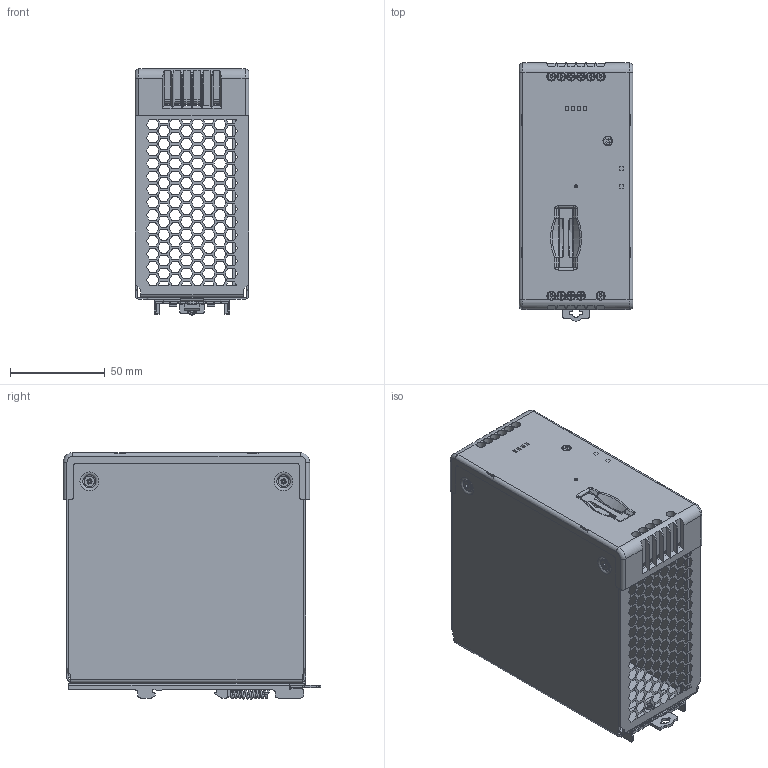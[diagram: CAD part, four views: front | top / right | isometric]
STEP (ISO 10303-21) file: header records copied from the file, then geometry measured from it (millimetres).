
FILE_DESCRIPTION(/* description */ ('Unknown'),/* implementation_level */ '2;1');
FILE_NAME(/* name */ 'Complessivo 78_2E---',/* time_stamp */ '2015-10-15T18:03:52+02:00',/* author */ ('Unknown'),/* organization */ ('Unknown'),/* preprocessor_version */ 'ST-DEVELOPER v16',/* originating_system */ 'DEX',/* authorisation */ $);
FILE_SCHEMA (('AUTOMOTIVE_DESIGN {1 0 10303 214 3 1 1}'));
Products named in the file (1): Complessivo 78_2E---
Bounding box: 60 x 135.88 x 129.92 mm (x, y, z)
Surface area: 117301.5 mm2 (no closed solid volume)
Topology: 0 solids, 60 shells, 2098 faces, 10110 edges, 8011 vertices
Faces by surface type: plane 1568, cylinder 337, cone 100, torus 55, bspline 30, sphere 8
Full cylindrical faces by diameter (mm): 2.83 x2, 3.2 x4, 4.6 x11, 4.7 x11, 5 x5, 5.5 x5
Entity records: 112042 total; most frequent: CARTESIAN_POINT 26689, DIRECTION 16295, ORIENTED_EDGE 15200, EDGE_CURVE 10008, VERTEX_POINT 7978, LINE 7137, VECTOR 7137, AXIS2_PLACEMENT_3D 4579
